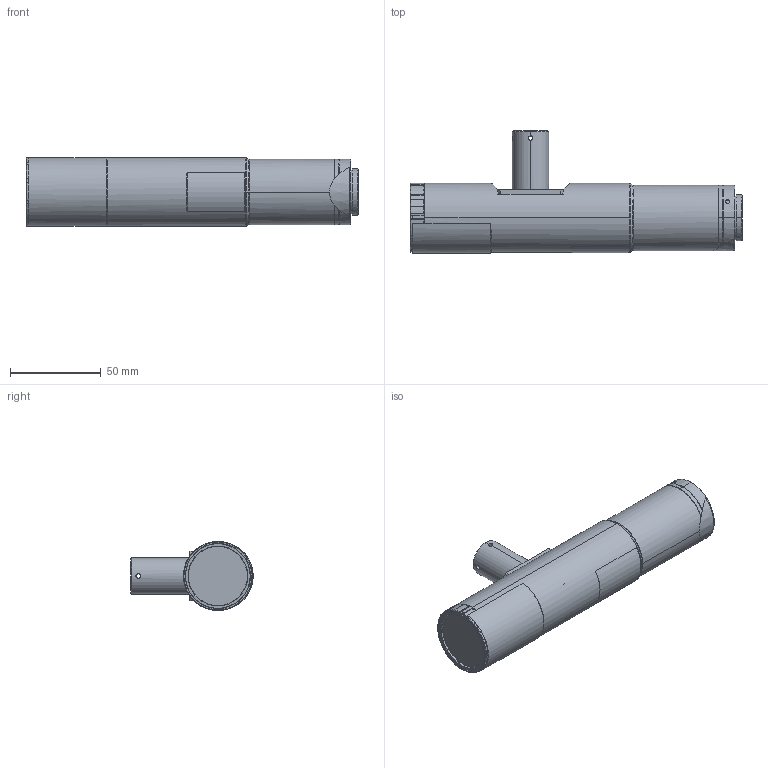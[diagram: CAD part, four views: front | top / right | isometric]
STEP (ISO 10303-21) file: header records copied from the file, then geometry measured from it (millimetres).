
FILE_DESCRIPTION (( 'STEP AP203' ), '1' );
FILE_NAME ('DTCA121-10C.STEP', '2024-01-16T01:31:11', ( '' ), ( '' ), 'SwSTEP 2.0', 'SolidWorks 2017', '' );
FILE_SCHEMA (( 'CONFIG_CONTROL_DESIGN' ));
Length unit declared in the file: millimetre
Products named in the file (1): DTCA121-10C
Bounding box: 182.89 x 67.3 x 38 mm (x, y, z)
Volume: 198143 mm3; surface area: 30457.7 mm2
Topology: 1 solids, 5 shells, 299 faces, 720 edges, 454 vertices
Faces by surface type: cylinder 135, cone 85, plane 75, torus 4
Entity records: 9946 total; most frequent: CARTESIAN_POINT 2990, ORIENTED_EDGE 1440, DIRECTION 1431, EDGE_CURVE 720, AXIS2_PLACEMENT_3D 581, VERTEX_POINT 454, EDGE_LOOP 330, ADVANCED_FACE 299
